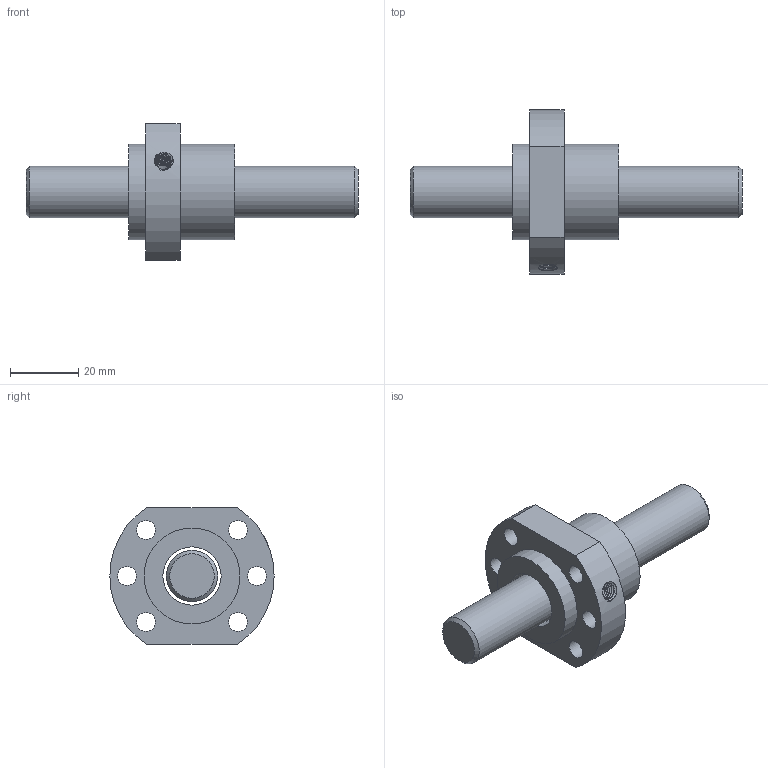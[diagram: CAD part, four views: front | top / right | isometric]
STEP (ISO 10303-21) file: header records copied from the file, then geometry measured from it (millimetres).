
FILE_DESCRIPTION (( 'STEP AP203' ), '1' );
FILE_NAME ('SFA1605-3.8.STEP', '2023-08-16T00:56:27', ( '' ), ( '' ), 'SwSTEP 2.0', 'SolidWorks 2022', '' );
FILE_SCHEMA (( 'CONFIG_CONTROL_DESIGN' ));
Length unit declared in the file: millimetre
Products named in the file (1): SFA1605-3.8
Bounding box: 97 x 48 x 40 mm (x, y, z)
Volume: 37970.6 mm3; surface area: 13765.7 mm2
Topology: 2 solids, 2 shells, 29 faces, 67 edges, 44 vertices
Faces by surface type: cylinder 15, plane 9, cone 3, bspline 2
Full cylindrical faces by diameter (mm): 2 x1, 5.5 x6, 15 x1, 17 x1, 28 x2
Entity records: 3204 total; most frequent: CARTESIAN_POINT 2521, DIRECTION 124, ORIENTED_EDGE 98, EDGE_LOOP 61, AXIS2_PLACEMENT_3D 58, EDGE_CURVE 49, FACE_OUTER_BOUND 40, VERTEX_POINT 40
